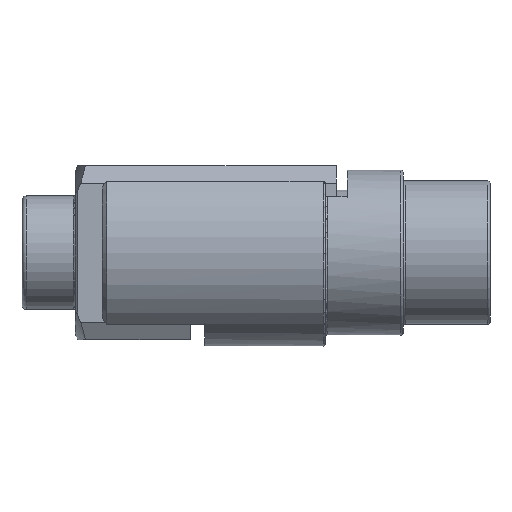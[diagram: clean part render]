
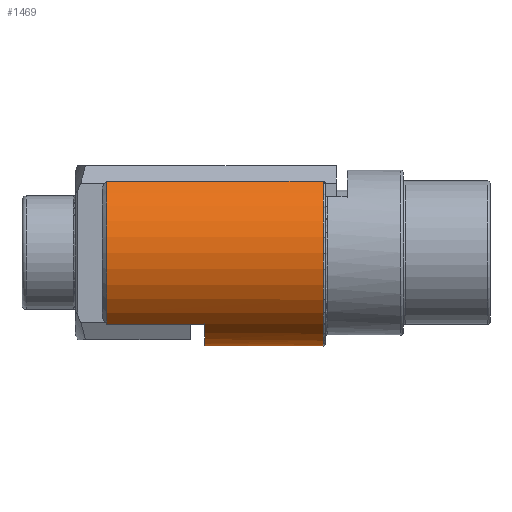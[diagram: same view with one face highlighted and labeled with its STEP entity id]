
A CAD part, left-side view. The second image highlights one B-rep face of the part: STEP entity #1469.
In plain terms, the highlighted cylindrical face has radius 11.1 mm (diameter 22.2 mm), a partial arc.
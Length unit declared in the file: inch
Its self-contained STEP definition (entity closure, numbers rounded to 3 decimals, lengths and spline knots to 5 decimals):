
#157=FACE_OUTER_BOUND('',#239,.T.);
#239=EDGE_LOOP('',(#1034,#1035,#1036,#1037,#1038,#1039,#1040,#1041));
#335=LINE('',#2366,#418);
#336=LINE('',#2370,#419);
#337=LINE('',#2374,#420);
#338=LINE('',#2377,#421);
#418=VECTOR('',#1847,0.3937);
#419=VECTOR('',#1850,0.3937);
#420=VECTOR('',#1853,0.3937);
#421=VECTOR('',#1856,0.3937);
#510=CIRCLE('',#1599,0.437);
#511=CIRCLE('',#1601,0.437);
#512=CIRCLE('',#1602,0.437);
#513=CIRCLE('',#1603,0.437);
#625=VERTEX_POINT('',#2341);
#626=VERTEX_POINT('',#2352);
#627=VERTEX_POINT('',#2365);
#628=VERTEX_POINT('',#2367);
#629=VERTEX_POINT('',#2369);
#630=VERTEX_POINT('',#2371);
#631=VERTEX_POINT('',#2373);
#632=VERTEX_POINT('',#2375);
#789=EDGE_CURVE('',#625,#626,#510,.T.);
#791=EDGE_CURVE('',#625,#627,#335,.T.);
#792=EDGE_CURVE('',#628,#627,#511,.T.);
#793=EDGE_CURVE('',#628,#629,#336,.T.);
#794=EDGE_CURVE('',#629,#630,#512,.T.);
#795=EDGE_CURVE('',#630,#631,#337,.T.);
#796=EDGE_CURVE('',#632,#631,#513,.T.);
#797=EDGE_CURVE('',#632,#626,#338,.T.);
#1034=ORIENTED_EDGE('',*,*,#791,.T.);
#1035=ORIENTED_EDGE('',*,*,#792,.F.);
#1036=ORIENTED_EDGE('',*,*,#793,.T.);
#1037=ORIENTED_EDGE('',*,*,#794,.T.);
#1038=ORIENTED_EDGE('',*,*,#795,.T.);
#1039=ORIENTED_EDGE('',*,*,#796,.F.);
#1040=ORIENTED_EDGE('',*,*,#797,.T.);
#1041=ORIENTED_EDGE('',*,*,#789,.F.);
#1442=CYLINDRICAL_SURFACE('',#1600,0.437);
#1469=ADVANCED_FACE('',(#157),#1442,.T.);
#1599=AXIS2_PLACEMENT_3D('',#2353,#1843,#1844);
#1600=AXIS2_PLACEMENT_3D('',#2364,#1845,#1846);
#1601=AXIS2_PLACEMENT_3D('',#2368,#1848,#1849);
#1602=AXIS2_PLACEMENT_3D('',#2372,#1851,#1852);
#1603=AXIS2_PLACEMENT_3D('',#2376,#1854,#1855);
#1843=DIRECTION('center_axis',(0.,-1.,0.));
#1844=DIRECTION('ref_axis',(0.,0.,1.));
#1845=DIRECTION('center_axis',(0.,-1.,0.));
#1846=DIRECTION('ref_axis',(0.,0.,-1.));
#1847=DIRECTION('',(0.,1.,0.));
#1848=DIRECTION('center_axis',(0.,1.,0.));
#1849=DIRECTION('ref_axis',(0.,0.,1.));
#1850=DIRECTION('',(0.,-1.,0.));
#1851=DIRECTION('center_axis',(0.,-1.,0.));
#1852=DIRECTION('ref_axis',(0.,0.,-1.));
#1853=DIRECTION('',(0.,1.,0.));
#1854=DIRECTION('center_axis',(0.,1.,0.));
#1855=DIRECTION('ref_axis',(0.,0.,1.));
#1856=DIRECTION('',(0.,-1.,0.));
#2341=CARTESIAN_POINT('',(-0.282,0.78,0.33383));
#2352=CARTESIAN_POINT('',(0.282,0.78,0.33383));
#2353=CARTESIAN_POINT('Origin',(0.,0.78,0.));
#2364=CARTESIAN_POINT('Origin',(0.,1.291,0.));
#2365=CARTESIAN_POINT('',(-0.282,1.792,0.33383));
#2366=CARTESIAN_POINT('',(-0.282,1.291,0.33383));
#2367=CARTESIAN_POINT('',(-0.282,1.792,-0.33383));
#2368=CARTESIAN_POINT('Origin',(0.,1.792,0.));
#2369=CARTESIAN_POINT('',(-0.282,1.332,-0.33383));
#2370=CARTESIAN_POINT('',(-0.282,1.291,-0.33383));
#2371=CARTESIAN_POINT('',(0.282,1.332,-0.33383));
#2372=CARTESIAN_POINT('Origin',(0.,1.332,0.));
#2373=CARTESIAN_POINT('',(0.282,1.792,-0.33383));
#2374=CARTESIAN_POINT('',(0.282,1.291,-0.33383));
#2375=CARTESIAN_POINT('',(0.282,1.792,0.33383));
#2376=CARTESIAN_POINT('Origin',(0.,1.792,0.));
#2377=CARTESIAN_POINT('',(0.282,1.291,0.33383));
